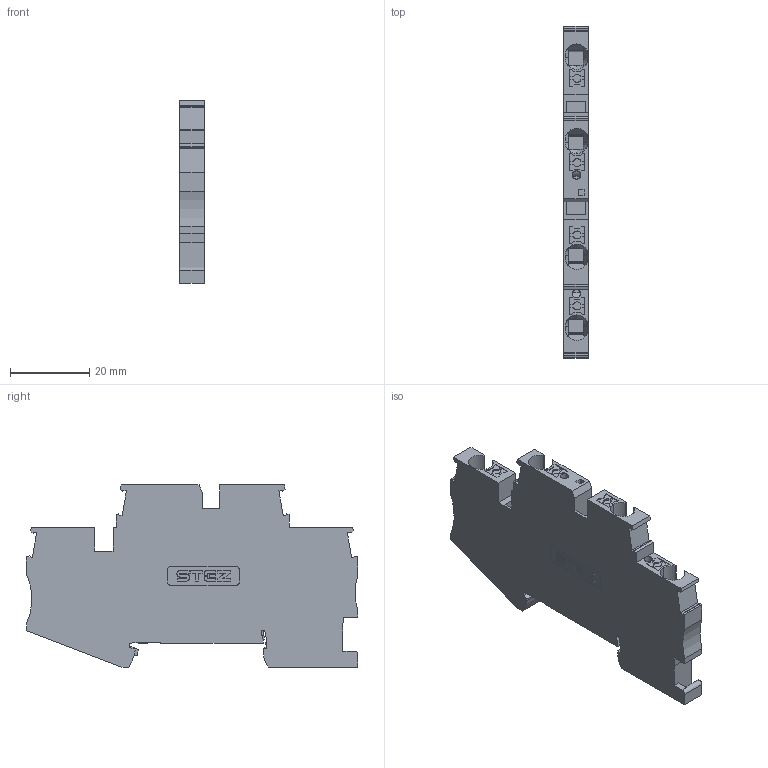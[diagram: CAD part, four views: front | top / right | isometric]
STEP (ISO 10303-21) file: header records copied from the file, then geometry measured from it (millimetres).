
FILE_DESCRIPTION(('TFLEX Exchange Step'),'2;1');
FILE_NAME('14100022_КНБ_4-2У-PE.stp', '2025-06-24T11:06:03+03:00',('MVarava'),('Unknown organisation'),'TFLEX Exchange 2023.0','T-FLEX CAD','Unknown authorisation');
FILE_SCHEMA( ('AUTOMOTIVE_DESIGN { 1 0 10303 214 1 1 1 1 }') );
Length unit declared in the file: millimetre
Products named in the file (1): Nodes
Bounding box: 6.15 x 83.8 x 46.05 mm (x, y, z)
Volume: 16220.4 mm3; surface area: 9437.6 mm2
Topology: 1 solids, 1 shells, 534 faces, 1548 edges, 1030 vertices
Faces by surface type: plane 320, cylinder 198, torus 8, cone 8
Full cylindrical faces by diameter (mm): 2.1 x2
Entity records: 19805 total; most frequent: CARTESIAN_POINT 5672, ORIENTED_EDGE 3096, DIRECTION 2713, EDGE_CURVE 1548, VERTEX_POINT 1030, VECTOR 919, LINE 919, AXIS2_PLACEMENT_3D 897
